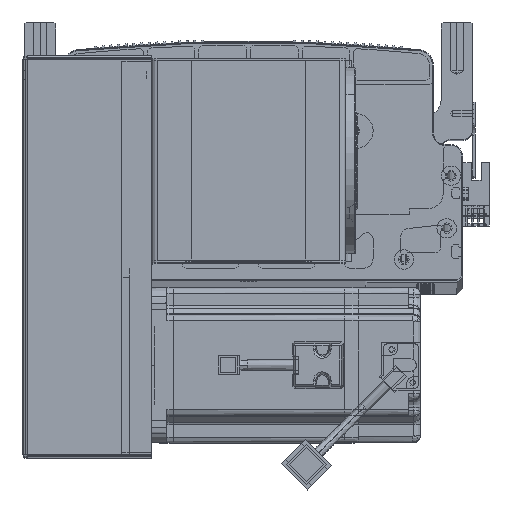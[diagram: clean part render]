
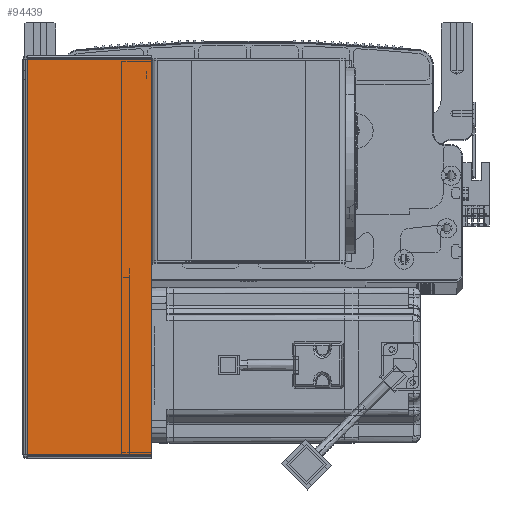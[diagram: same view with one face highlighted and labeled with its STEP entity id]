
A CAD part, top view. The second image highlights one B-rep face of the part: STEP entity #94439.
In plain terms, the highlighted planar face has unit normal (0, 0, 1) as drawn and (0, -1, 0) by its records, which use the part's own axes.
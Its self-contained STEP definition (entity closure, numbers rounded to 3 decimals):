
#823 = CARTESIAN_POINT ( 'NONE',  ( 64.5, -1.5, -203.293 ) ) ;
#6901 = LINE ( 'NONE', #62379, #57372 ) ;
#6952 = VERTEX_POINT ( 'NONE', #84866 ) ;
#7490 = FACE_OUTER_BOUND ( 'NONE', #69087, .T. ) ;
#10952 = VERTEX_POINT ( 'NONE', #29488 ) ;
#12106 = VECTOR ( 'NONE', #71660, 1000. ) ;
#12952 = ORIENTED_EDGE ( 'NONE', *, *, #90430, .F. ) ;
#16319 = PLANE ( 'NONE',  #51161 ) ;
#19310 = CARTESIAN_POINT ( 'NONE',  ( 0., -1.5, -203.293 ) ) ;
#24205 = CARTESIAN_POINT ( 'NONE',  ( 0., -1.5, 0. ) ) ;
#24351 = VECTOR ( 'NONE', #33331, 1000. ) ;
#29488 = CARTESIAN_POINT ( 'NONE',  ( 0.737, -1.5, -0.707 ) ) ;
#30016 = CARTESIAN_POINT ( 'NONE',  ( 0.737, -1.5, -203.293 ) ) ;
#31395 = ORIENTED_EDGE ( 'NONE', *, *, #97061, .F. ) ;
#32101 = DIRECTION ( 'NONE',  ( -1., 0., 0. ) ) ;
#33156 = EDGE_CURVE ( 'NONE', #77626, #94450, #98249, .T. ) ;
#33331 = DIRECTION ( 'NONE',  ( 0., 0., 1. ) ) ;
#50203 = LINE ( 'NONE', #80455, #24351 ) ;
#51161 = AXIS2_PLACEMENT_3D ( 'NONE', #24205, #79238, #32101 ) ;
#57372 = VECTOR ( 'NONE', #85849, 1000. ) ;
#62379 = CARTESIAN_POINT ( 'NONE',  ( 64.5, -1.5, 0. ) ) ;
#62409 = LINE ( 'NONE', #72010, #12106 ) ;
#69087 = EDGE_LOOP ( 'NONE', ( #12952, #90374, #85246, #31395 ) ) ;
#69981 = EDGE_CURVE ( 'NONE', #94450, #6952, #6901, .T. ) ;
#71660 = DIRECTION ( 'NONE',  ( 1., 0., 0. ) ) ;
#72010 = CARTESIAN_POINT ( 'NONE',  ( 0., -1.5, -0.707 ) ) ;
#74877 = VECTOR ( 'NONE', #96946, 1000. ) ;
#77626 = VERTEX_POINT ( 'NONE', #30016 ) ;
#79238 = DIRECTION ( 'NONE',  ( 0., 1., 0. ) ) ;
#80455 = CARTESIAN_POINT ( 'NONE',  ( 0.737, -1.5, 0. ) ) ;
#84866 = CARTESIAN_POINT ( 'NONE',  ( 64.5, -1.5, -0.707 ) ) ;
#85246 = ORIENTED_EDGE ( 'NONE', *, *, #69981, .T. ) ;
#85849 = DIRECTION ( 'NONE',  ( 0., 0., 1. ) ) ;
#90374 = ORIENTED_EDGE ( 'NONE', *, *, #33156, .T. ) ;
#90430 = EDGE_CURVE ( 'NONE', #77626, #10952, #50203, .T. ) ;
#94439 = ADVANCED_FACE ( 'NONE', ( #7490 ), #16319, .F. ) ;
#94450 = VERTEX_POINT ( 'NONE', #823 ) ;
#96946 = DIRECTION ( 'NONE',  ( 1., 0., 0. ) ) ;
#97061 = EDGE_CURVE ( 'NONE', #10952, #6952, #62409, .T. ) ;
#98249 = LINE ( 'NONE', #19310, #74877 ) ;
